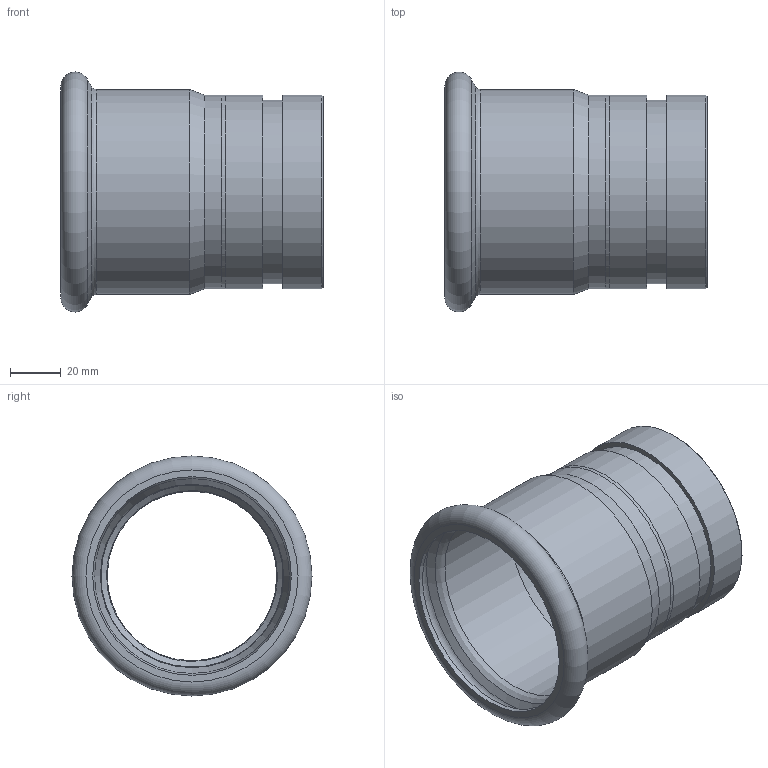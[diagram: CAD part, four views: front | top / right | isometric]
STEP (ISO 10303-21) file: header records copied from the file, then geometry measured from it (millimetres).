
FILE_DESCRIPTION((''),'2;1');
FILE_NAME('G:\Nirosan-Schmiedefeld\Technics\CAD\001 Serie 9.000\076\69250761761(0).stp','2018-09-11T15:37:25',('herberg'),(''),'Autodesk Inventor 2009','Autodesk Inventor 2009','');
FILE_SCHEMA(('AUTOMOTIVE_DESIGN { 1 0 10303 214 1 1 1 1 }'));
Length unit declared in the file: millimetre
Products named in the file (3): 69250761761(0); 69HM76P(0); sp761761(0)
Assembly tree (2 placements, depth 2):
  69250761761(0)
    69HM76P(0)
    sp761761(0)
Bounding box: 103 x 94.29 x 94.29 mm (x, y, z)
Volume: 69595.1 mm3; surface area: 57904.2 mm2
Topology: 2 solids, 2 shells, 30 faces, 54 edges, 31 vertices
Faces by surface type: cylinder 10, plane 7, cone 7, torus 3, bspline 3
Full cylindrical faces by diameter (mm): 66.54 x1, 72.1 x2, 72.14 x1, 76.1 x3, 76.6 x1, 78 x1, 80.6 x1
Entity records: 821 total; most frequent: CARTESIAN_POINT 227, DIRECTION 124, AXIS2_PLACEMENT_3D 62, ORIENTED_EDGE 60, EDGE_LOOP 60, VERTEX_POINT 30, CIRCLE 30, EDGE_CURVE 30
